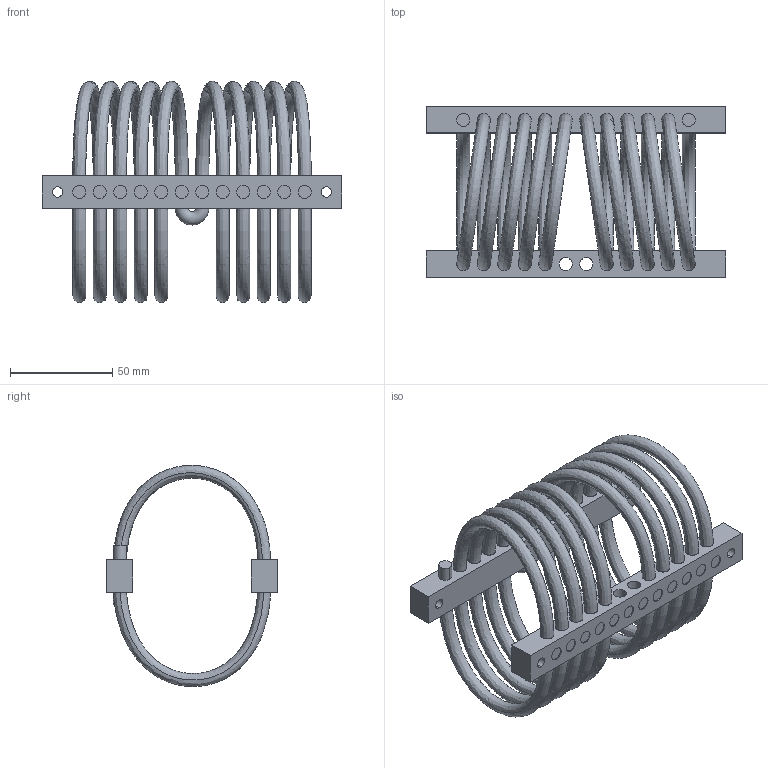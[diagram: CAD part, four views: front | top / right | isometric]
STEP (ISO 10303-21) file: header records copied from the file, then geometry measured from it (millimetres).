
FILE_DESCRIPTION (( 'STEP AP214' ), '1' );
FILE_NAME ('WR8-900-10DM.STEP', '2018-12-07T09:59:15', ( 'user' ), ( 'Microsoft' ), 'SwSTEP 2.0', 'SolidWorks 2016', '' );
FILE_SCHEMA (( 'AUTOMOTIVE_DESIGN' ));
Length unit declared in the file: millimetre
Products named in the file (1): WR8-900-10DM
Bounding box: 146.1 x 83 x 107.97 mm (x, y, z)
Volume: 136945.4 mm3; surface area: 83264.4 mm2
Topology: 25 solids, 25 shells, 316 faces, 702 edges, 460 vertices
Faces by surface type: cylinder 192, plane 82, bspline 40, torus 2
Entity records: 23290 total; most frequent: CARTESIAN_POINT 16019, ORIENTED_EDGE 1404, DIRECTION 1382, EDGE_CURVE 702, AXIS2_PLACEMENT_3D 583, VERTEX_POINT 460, EDGE_LOOP 396, FACE_OUTER_BOUND 316
